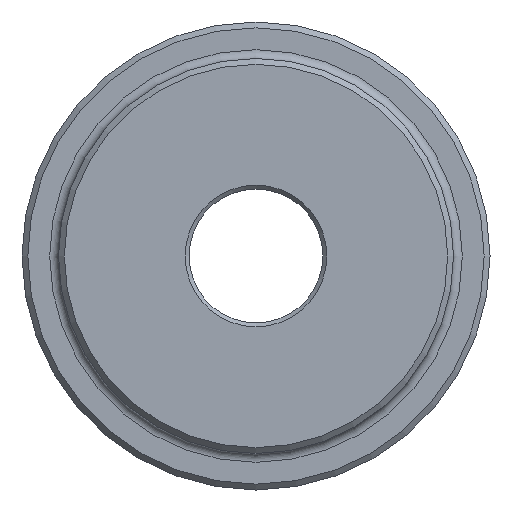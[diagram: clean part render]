
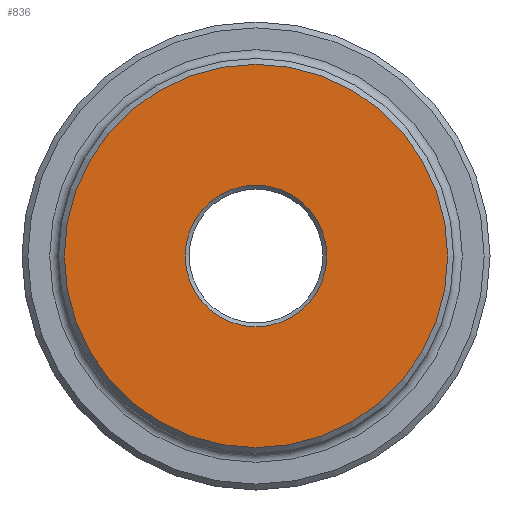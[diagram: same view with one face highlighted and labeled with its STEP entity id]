
A CAD part, left-side view. The second image highlights one B-rep face of the part: STEP entity #836.
In plain terms, the highlighted planar face has unit normal (-1, 0, 0).
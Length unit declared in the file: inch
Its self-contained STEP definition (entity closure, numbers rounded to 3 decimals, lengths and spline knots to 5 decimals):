
#110 = CARTESIAN_POINT ( 'NONE',  ( 0., 0., 0. ) ) ;
#194 = AXIS2_PLACEMENT_3D ( 'NONE', #1595, #1828, #1093 ) ;
#322 = PLANE ( 'NONE',  #194 ) ;
#423 = DIRECTION ( 'NONE',  ( 0., 0., -1. ) ) ;
#472 = EDGE_CURVE ( 'NONE', #1786, #1786, #2090, .T. ) ;
#747 = DIRECTION ( 'NONE',  ( -1., 0., 0. ) ) ;
#822 = EDGE_LOOP ( 'NONE', ( #1430 ) ) ;
#836 = ADVANCED_FACE ( 'NONE', ( #1275, #1435 ), #322, .F. ) ;
#1046 = EDGE_CURVE ( 'NONE', #2146, #2146, #1527, .T. ) ;
#1093 = DIRECTION ( 'NONE',  ( 0., 0., -1. ) ) ;
#1180 = AXIS2_PLACEMENT_3D ( 'NONE', #1298, #2191, #423 ) ;
#1275 = FACE_BOUND ( 'NONE', #1631, .T. ) ;
#1298 = CARTESIAN_POINT ( 'NONE',  ( 0., 0., 0. ) ) ;
#1325 = ORIENTED_EDGE ( 'NONE', *, *, #1046, .T. ) ;
#1430 = ORIENTED_EDGE ( 'NONE', *, *, #472, .T. ) ;
#1435 = FACE_OUTER_BOUND ( 'NONE', #822, .T. ) ;
#1527 = CIRCLE ( 'NONE', #1180, 0.72775 ) ;
#1595 = CARTESIAN_POINT ( 'NONE',  ( 0., 0., 0. ) ) ;
#1612 = AXIS2_PLACEMENT_3D ( 'NONE', #110, #747, #1645 ) ;
#1631 = EDGE_LOOP ( 'NONE', ( #1325 ) ) ;
#1645 = DIRECTION ( 'NONE',  ( 0., 0., -1. ) ) ;
#1687 = CARTESIAN_POINT ( 'NONE',  ( 0., 0., -0.72775 ) ) ;
#1786 = VERTEX_POINT ( 'NONE', #2272 ) ;
#1828 = DIRECTION ( 'NONE',  ( 1., 0., 0. ) ) ;
#2090 = CIRCLE ( 'NONE', #1612, 1.97 ) ;
#2146 = VERTEX_POINT ( 'NONE', #1687 ) ;
#2191 = DIRECTION ( 'NONE',  ( 1., 0., 0. ) ) ;
#2272 = CARTESIAN_POINT ( 'NONE',  ( 0., 0., -1.97 ) ) ;
